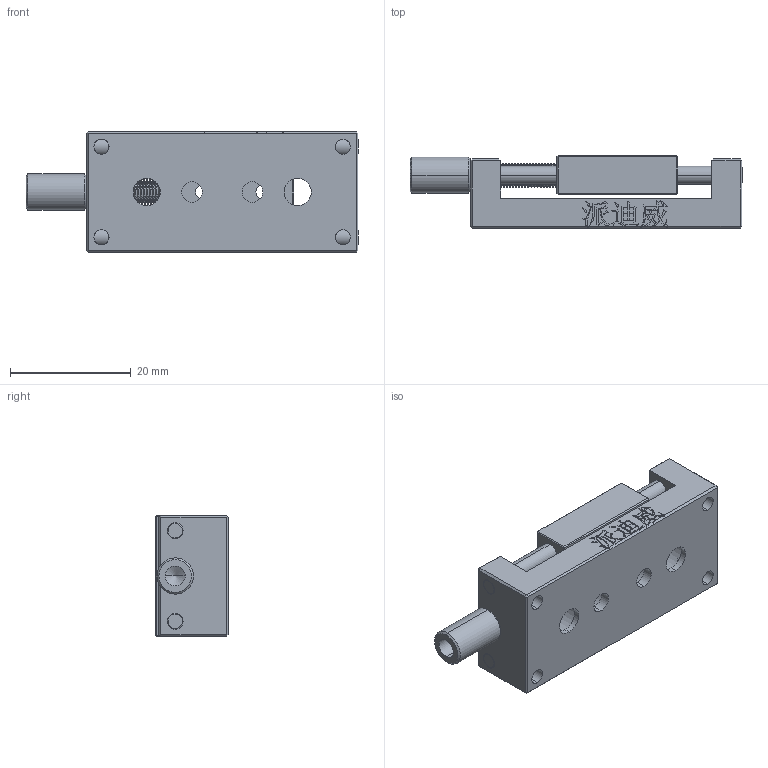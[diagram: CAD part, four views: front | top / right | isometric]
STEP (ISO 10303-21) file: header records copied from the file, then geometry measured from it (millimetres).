
FILE_DESCRIPTION (( 'STEP AP214' ), '1' );
FILE_NAME ('PT-SD10.STEP', '2022-09-17T02:17:59', ( '' ), ( '' ), 'SwSTEP 2.0', 'SolidWorks 2017', '' );
FILE_SCHEMA (( 'AUTOMOTIVE_DESIGN' ));
Length unit declared in the file: millimetre
Products named in the file (1): PT-SD10
Bounding box: 55 x 12.05 x 20 mm (x, y, z)
Volume: 7700.9 mm3; surface area: 6129.6 mm2
Topology: 1 solids, 2 shells, 482 faces, 1271 edges, 820 vertices
Faces by surface type: plane 240, cylinder 113, bspline 109, cone 20
Entity records: 22910 total; most frequent: CARTESIAN_POINT 11818, ORIENTED_EDGE 2526, DIRECTION 1850, EDGE_CURVE 1263, VERTEX_POINT 820, LINE 796, VECTOR 796, EDGE_LOOP 551
